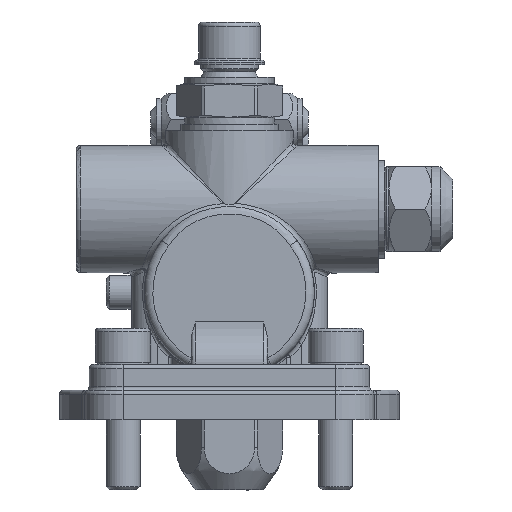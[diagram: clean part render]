
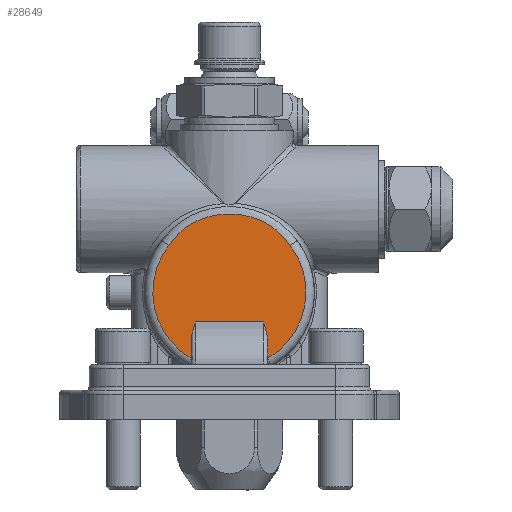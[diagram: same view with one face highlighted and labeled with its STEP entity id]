
A CAD part, left-side view. The second image highlights one B-rep face of the part: STEP entity #28649.
In plain terms, the highlighted planar face has unit normal (-1, 0, 0).
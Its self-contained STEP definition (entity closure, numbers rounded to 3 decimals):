
#23552=CARTESIAN_POINT('',(-25.5,-14.312,39.917));
#23553=VERTEX_POINT('',#23552);
#23561=CARTESIAN_POINT('',(-25.5,-9.,13.412));
#23562=VERTEX_POINT('',#23561);
#23563=CARTESIAN_POINT('',(-25.5,0.,29.));
#23564=DIRECTION('',(1.0,0.0,0.0));
#23565=DIRECTION('',(0.0,0.0,1.0));
#23566=AXIS2_PLACEMENT_3D('',#23563,#23564,#23565);
#23567=CIRCLE('',#23566,18.0);
#23568=EDGE_CURVE('',#23553,#23562,#23567,.T.);
#23647=CARTESIAN_POINT('',(-25.5,14.312,39.917));
#23648=VERTEX_POINT('',#23647);
#23656=CARTESIAN_POINT('',(-25.5,14.312,39.917));
#23657=CARTESIAN_POINT('',(-25.5,13.827,40.552));
#23658=CARTESIAN_POINT('',(-25.5,12.849,41.819));
#23659=CARTESIAN_POINT('',(-25.5,10.602,44.118));
#23660=CARTESIAN_POINT('',(-25.5,7.143,46.227));
#23661=CARTESIAN_POINT('',(-25.5,0.841,47.796));
#23662=CARTESIAN_POINT('',(-25.5,-5.727,47.051));
#23663=CARTESIAN_POINT('',(-25.5,-10.598,44.13));
#23664=CARTESIAN_POINT('',(-25.5,-12.839,41.827));
#23665=CARTESIAN_POINT('',(-25.5,-13.827,40.552));
#23666=CARTESIAN_POINT('',(-25.5,-14.312,39.917));
#23667=B_SPLINE_CURVE_WITH_KNOTS('',3,(#23656,#23657,#23658,#23659,#23660,#23661,#23662,#23663,#23664,#23665,#23666),.UNSPECIFIED.,.F.,.U.,(4,1,1,1,1,1,1,1,4),(0.,0.24,0.48,0.959,1.439,2.398,2.878,3.117,3.357),.UNSPECIFIED.);
#23668=EDGE_CURVE('',#23648,#23553,#23667,.T.);
#23703=CARTESIAN_POINT('',(-25.5,9.,13.412));
#23704=VERTEX_POINT('',#23703);
#23712=CARTESIAN_POINT('',(-25.5,0.,29.));
#23713=DIRECTION('',(1.0,0.0,0.0));
#23714=DIRECTION('',(0.0,0.0,1.0));
#23715=AXIS2_PLACEMENT_3D('',#23712,#23713,#23714);
#23716=CIRCLE('',#23715,18.0);
#23717=EDGE_CURVE('',#23704,#23648,#23716,.T.);
#26561=CARTESIAN_POINT('',(-25.5,-9.,17.417));
#26562=VERTEX_POINT('',#26561);
#26563=CARTESIAN_POINT('',(-25.5,-9.,17.417));
#26564=DIRECTION('',(0.0,0.0,-1.0));
#26565=VECTOR('',#26564,4.006);
#26566=LINE('',#26563,#26565);
#26567=EDGE_CURVE('',#26562,#23562,#26566,.T.);
#27676=CARTESIAN_POINT('',(-25.5,9.,17.417));
#27677=VERTEX_POINT('',#27676);
#27685=CARTESIAN_POINT('',(-25.5,9.,13.412));
#27686=DIRECTION('',(0.0,0.0,1.0));
#27687=VECTOR('',#27686,4.006);
#27688=LINE('',#27685,#27687);
#27689=EDGE_CURVE('',#23704,#27677,#27688,.T.);
#28090=CARTESIAN_POINT('',(-25.5,-8.,22.0));
#28091=VERTEX_POINT('',#28090);
#28092=CARTESIAN_POINT('',(-25.5,-8.,22.0));
#28093=CARTESIAN_POINT('',(-25.5,-8.447,20.588));
#28094=CARTESIAN_POINT('',(-25.5,-9.,18.899));
#28095=CARTESIAN_POINT('',(-25.5,-9.,17.417));
#28096=B_SPLINE_CURVE_WITH_KNOTS('',3,(#28092,#28093,#28094,#28095),.UNSPECIFIED.,.F.,.U.,(4,4),(0.0,0.444),.UNSPECIFIED.);
#28097=EDGE_CURVE('',#26562,#28091,#28096,.F.);
#28152=CARTESIAN_POINT('',(-25.5,8.,22.0));
#28153=VERTEX_POINT('',#28152);
#28154=CARTESIAN_POINT('',(-25.5,9.,17.417));
#28155=CARTESIAN_POINT('',(-25.5,9.,18.899));
#28156=CARTESIAN_POINT('',(-25.5,8.447,20.588));
#28157=CARTESIAN_POINT('',(-25.5,8.,22.0));
#28158=B_SPLINE_CURVE_WITH_KNOTS('',3,(#28154,#28155,#28156,#28157),.UNSPECIFIED.,.F.,.U.,(4,4),(0.913,1.357),.UNSPECIFIED.);
#28159=EDGE_CURVE('',#28153,#27677,#28158,.F.);
#28558=CARTESIAN_POINT('',(-25.5,-8.,22.0));
#28559=DIRECTION('',(0.0,1.0,0.0));
#28560=VECTOR('',#28559,16.);
#28561=LINE('',#28558,#28560);
#28562=EDGE_CURVE('',#28091,#28153,#28561,.T.);
#28634=CARTESIAN_POINT('',(-25.5,0.,29.));
#28635=DIRECTION('',(-1.0,0.0,0.0));
#28636=DIRECTION('',(0.0,0.0,1.0));
#28637=AXIS2_PLACEMENT_3D('',#28634,#28635,#28636);
#28638=PLANE('',#28637);
#28639=ORIENTED_EDGE('',*,*,#23717,.F.);
#28640=ORIENTED_EDGE('',*,*,#27689,.T.);
#28641=ORIENTED_EDGE('',*,*,#28159,.F.);
#28642=ORIENTED_EDGE('',*,*,#28562,.F.);
#28643=ORIENTED_EDGE('',*,*,#28097,.F.);
#28644=ORIENTED_EDGE('',*,*,#26567,.T.);
#28645=ORIENTED_EDGE('',*,*,#23568,.F.);
#28646=ORIENTED_EDGE('',*,*,#23668,.F.);
#28647=EDGE_LOOP('',(#28639,#28640,#28641,#28642,#28643,#28644,#28645,#28646));
#28648=FACE_OUTER_BOUND('',#28647,.T.);
#28649=ADVANCED_FACE('',(#28648),#28638,.T.);
